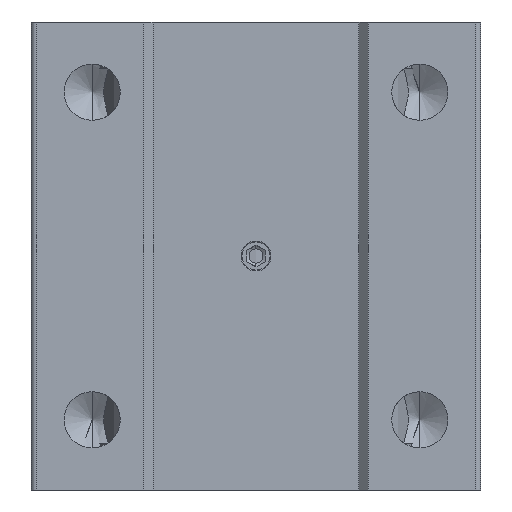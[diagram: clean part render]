
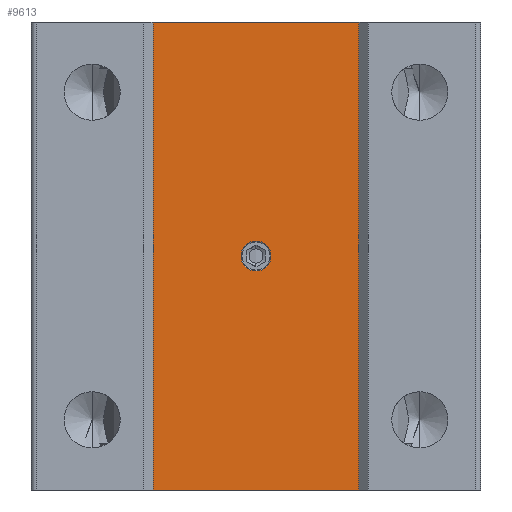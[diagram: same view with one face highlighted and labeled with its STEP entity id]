
A CAD part, front view. The second image highlights one B-rep face of the part: STEP entity #9613.
In plain terms, the highlighted planar face has unit normal (0, -1, 0).
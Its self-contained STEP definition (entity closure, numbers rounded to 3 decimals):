
#402 = ORIENTED_EDGE ( 'NONE', *, *, #12695, .F. ) ;
#440 = FACE_BOUND ( 'NONE', #9844, .T. ) ;
#648 = DIRECTION ( 'NONE',  ( 0., 0., -1. ) ) ;
#1572 = ORIENTED_EDGE ( 'NONE', *, *, #7900, .T. ) ;
#1586 = CARTESIAN_POINT ( 'NONE',  ( 0., -22., 25. ) ) ;
#1797 = CARTESIAN_POINT ( 'NONE',  ( 0., -22., 26.6 ) ) ;
#1858 = CARTESIAN_POINT ( 'NONE',  ( 0., -22., 23.4 ) ) ;
#2045 = EDGE_CURVE ( 'NONE', #3158, #5387, #7825, .T. ) ;
#2304 = CARTESIAN_POINT ( 'NONE',  ( 11., -22., 50. ) ) ;
#2309 = CARTESIAN_POINT ( 'NONE',  ( 0., -22., 25. ) ) ;
#2420 = ORIENTED_EDGE ( 'NONE', *, *, #3909, .F. ) ;
#2436 = VECTOR ( 'NONE', #7027, 1000. ) ;
#2589 = DIRECTION ( 'NONE',  ( 0., 0., -1. ) ) ;
#2592 = CARTESIAN_POINT ( 'NONE',  ( -11., -22., 50. ) ) ;
#2653 = ORIENTED_EDGE ( 'NONE', *, *, #8257, .F. ) ;
#3121 = CIRCLE ( 'NONE', #10271, 1.6 ) ;
#3158 = VERTEX_POINT ( 'NONE', #10073 ) ;
#3314 = DIRECTION ( 'NONE',  ( 0., 0., -1. ) ) ;
#3634 = ORIENTED_EDGE ( 'NONE', *, *, #12879, .F. ) ;
#3909 = EDGE_CURVE ( 'NONE', #6337, #11442, #3121, .T. ) ;
#3973 = CARTESIAN_POINT ( 'NONE',  ( -11., -22., 50. ) ) ;
#4170 = VECTOR ( 'NONE', #9571, 1000. ) ;
#4225 = CARTESIAN_POINT ( 'NONE',  ( 11., -22., 50. ) ) ;
#5387 = VERTEX_POINT ( 'NONE', #5828 ) ;
#5808 = FACE_OUTER_BOUND ( 'NONE', #9382, .T. ) ;
#5828 = CARTESIAN_POINT ( 'NONE',  ( 11., -22., 0. ) ) ;
#6157 = CIRCLE ( 'NONE', #8820, 1.6 ) ;
#6175 = LINE ( 'NONE', #12848, #11583 ) ;
#6337 = VERTEX_POINT ( 'NONE', #1858 ) ;
#7027 = DIRECTION ( 'NONE',  ( 1., 0., 0. ) ) ;
#7042 = DIRECTION ( 'NONE',  ( -1., 0., 0. ) ) ;
#7196 = LINE ( 'NONE', #8540, #4170 ) ;
#7695 = LINE ( 'NONE', #4225, #12786 ) ;
#7825 = LINE ( 'NONE', #10889, #2436 ) ;
#7900 = EDGE_CURVE ( 'NONE', #10122, #3158, #6175, .T. ) ;
#8257 = EDGE_CURVE ( 'NONE', #11442, #6337, #6157, .T. ) ;
#8540 = CARTESIAN_POINT ( 'NONE',  ( -11., -22., 50. ) ) ;
#8671 = DIRECTION ( 'NONE',  ( 0., -1., 0. ) ) ;
#8782 = VERTEX_POINT ( 'NONE', #2304 ) ;
#8820 = AXIS2_PLACEMENT_3D ( 'NONE', #2309, #9411, #3314 ) ;
#8914 = AXIS2_PLACEMENT_3D ( 'NONE', #3973, #13142, #7042 ) ;
#9029 = PLANE ( 'NONE',  #8914 ) ;
#9382 = EDGE_LOOP ( 'NONE', ( #12411, #402, #3634, #1572 ) ) ;
#9411 = DIRECTION ( 'NONE',  ( 0., -1., 0. ) ) ;
#9571 = DIRECTION ( 'NONE',  ( 1., 0., 0. ) ) ;
#9613 = ADVANCED_FACE ( 'NONE', ( #440, #5808 ), #9029, .F. ) ;
#9844 = EDGE_LOOP ( 'NONE', ( #2420, #2653 ) ) ;
#10073 = CARTESIAN_POINT ( 'NONE',  ( -11., -22., 0. ) ) ;
#10122 = VERTEX_POINT ( 'NONE', #2592 ) ;
#10271 = AXIS2_PLACEMENT_3D ( 'NONE', #1586, #8671, #2589 ) ;
#10889 = CARTESIAN_POINT ( 'NONE',  ( -11., -22., 0. ) ) ;
#11442 = VERTEX_POINT ( 'NONE', #1797 ) ;
#11583 = VECTOR ( 'NONE', #648, 1000. ) ;
#12370 = DIRECTION ( 'NONE',  ( 0., 0., -1. ) ) ;
#12411 = ORIENTED_EDGE ( 'NONE', *, *, #2045, .T. ) ;
#12695 = EDGE_CURVE ( 'NONE', #8782, #5387, #7695, .T. ) ;
#12786 = VECTOR ( 'NONE', #12370, 1000. ) ;
#12848 = CARTESIAN_POINT ( 'NONE',  ( -11., -22., 50. ) ) ;
#12879 = EDGE_CURVE ( 'NONE', #10122, #8782, #7196, .T. ) ;
#13142 = DIRECTION ( 'NONE',  ( 0., 1., 0. ) ) ;
